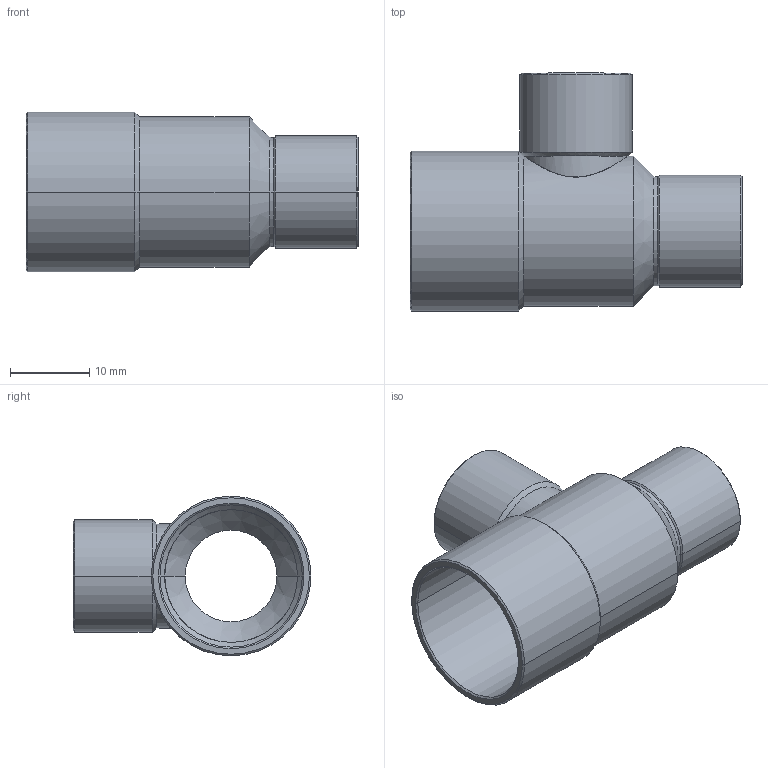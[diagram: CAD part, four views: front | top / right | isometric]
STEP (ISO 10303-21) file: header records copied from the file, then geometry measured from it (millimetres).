
FILE_DESCRIPTION((''),'2;1');
FILE_NAME('P:\Bouwmaten\z-maattekeningen 3D\5000\5130\5130181212.stp','2005-10-26T11:53:20',('Kris'),(''),'Autodesk Inventor 8','Autodesk Inventor 8','');
FILE_SCHEMA(('AUTOMOTIVE_DESIGN { 1 0 10303 214 1 1 1 1 }'));
Length unit declared in the file: millimetre
Products named in the file (1): 5130181212
Bounding box: 42 x 30.1 x 20.2 mm (x, y, z)
Volume: 2893.7 mm3; surface area: 5452.1 mm2
Topology: 1 solids, 1 shells, 57 faces, 129 edges, 73 vertices
Faces by surface type: cone 28, cylinder 24, plane 3, bspline 2
Entity records: 2251 total; most frequent: CARTESIAN_POINT 960, DIRECTION 275, ORIENTED_EDGE 258, EDGE_CURVE 129, AXIS2_PLACEMENT_3D 113, VERTEX_POINT 73, EDGE_LOOP 60, CIRCLE 57
